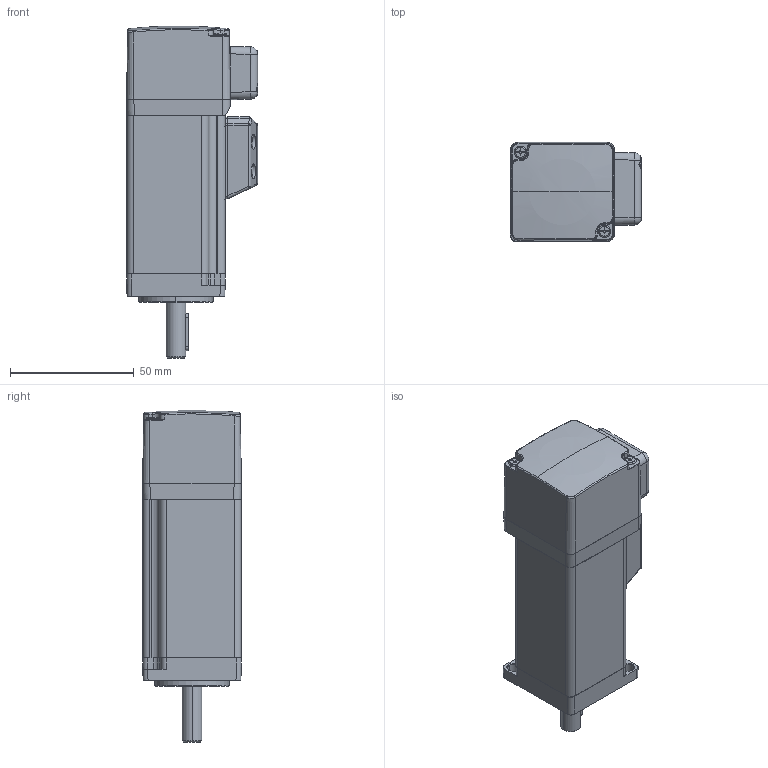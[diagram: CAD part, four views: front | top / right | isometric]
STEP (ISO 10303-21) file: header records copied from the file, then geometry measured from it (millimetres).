
FILE_DESCRIPTION((''),'2;1');
FILE_NAME('40-4P-100W_ASM','2017-09-14T',('Administrator'),(''),'PRO/ENGINEER BY PARAMETRIC TECHNOLOGY CORPORATION, 2010280','PRO/ENGINEER BY PARAMETRIC TECHNOLOGY CORPORATION, 2010280','');
FILE_SCHEMA(('CONFIG_CONTROL_DESIGN'));
Length unit declared in the file: millimetre
Products named in the file (38): MADAWAIKE-04-0301-0070_10_1; QIANDUANGAI-04-0302-0071_10_1; DIANJIZHOU-04-0202-0201_3_1; ZHUANZIZHUANGPEI-11-0300-0067_A_ASM; PRT0002_4_1; DINGZIZHUANGPEITU-11-0300-0034__ASM; TK40HOUDUANGAI-04-0302-0072_16_; DIANPIAN2_1_1; DIANYUANXIANZUO_ASM_7_ASM_1_ASM; TK40HOUZAO-05-0201-0080_19_1_1; TK40HOUZAO-05-0201-0080_19_2_1; TK40HOUZAO-05-0201-0080_19_3_1; TK40HOUZAO-05-0201-0080_19_ASM__ASM; M3X8_2_1; M3X35_2_1; MIFENGQUAN_6_1; JIAN_1_1; M2X4_1_1; 05-0201-0072_1_1__1_1; 05-0201-0073_4_1__1_1; 09-0000-0039_5_1__1_1; 04-0205-0061_4_1__1_1; 05-0201-0074_5_1__1_1; 05-0103-0010_5_1__1_1; DIANYUANXIAN-6_ASM_6_ASM_1__ASM_ASM; DIANJIXIANZUO2_ASM_4_ASM_1_ASM; PRT0010_1_1; DIXIANDUANZI2_2_1; 05-0201-0069_2_1_1_1; 05-0201-0071_3_1_1_1; 05-0201-0070_4_1_1_1; 09-0000-0039_2_1_1_1; 04-0205-0051_4_1_1_1; BIANMAQIXIAN-N21_ASM_3_ASM_1_AS_ASM; BIANMAQIXIANZUO1_ASM_1_ASM_1_ASM; ZONGZHUANGTU_ASM_87_ASM_1_ASM; 40-100W_ASM_1_ASM; 40-4P-100W_ASM
Assembly tree (54 placements, depth 6):
  40-4P-100W_ASM
    40-100W_ASM_1_ASM
      ZONGZHUANGTU_ASM_87_ASM_1_ASM
        MADAWAIKE-04-0301-0070_10_1
        QIANDUANGAI-04-0302-0071_10_1
        ZHUANZIZHUANGPEI-11-0300-0067_A_ASM
          DIANJIZHOU-04-0202-0201_3_1
        DINGZIZHUANGPEITU-11-0300-0034__ASM
          PRT0002_4_1
        TK40HOUDUANGAI-04-0302-0072_16_
        DIANYUANXIANZUO_ASM_7_ASM_1_ASM
          DIANPIAN2_1_1
        TK40HOUZAO-05-0201-0080_19_ASM__ASM
          TK40HOUZAO-05-0201-0080_19_1_1
          TK40HOUZAO-05-0201-0080_19_2_1
          TK40HOUZAO-05-0201-0080_19_3_1
        M3X8_2_1  x6
        M3X35_2_1  x2
        MIFENGQUAN_6_1  x2
        JIAN_1_1
        M2X4_1_1
        DIANJIXIANZUO2_ASM_4_ASM_1_ASM
          DIANYUANXIAN-6_ASM_6_ASM_1__ASM_ASM
            05-0201-0072_1_1__1_1
            05-0201-0073_4_1__1_1
            09-0000-0039_5_1__1_1  x4
            04-0205-0061_4_1__1_1  x4
            05-0201-0074_5_1__1_1
            05-0103-0010_5_1__1_1  x3
        PRT0010_1_1
        DIXIANDUANZI2_2_1
        BIANMAQIXIANZUO1_ASM_1_ASM_1_ASM
          BIANMAQIXIAN-N21_ASM_3_ASM_1_AS_ASM
            05-0201-0069_2_1_1_1
            05-0201-0071_3_1_1_1
            05-0201-0070_4_1_1_1
            09-0000-0039_2_1_1_1  x2
            04-0205-0051_4_1_1_1  x2
Bounding box: 53.03 x 40.06 x 134.3 mm (x, y, z)
Volume: 77574.4 mm3; surface area: 62919.3 mm2
Topology: 44 solids, 49 shells, 1331 faces, 3611 edges, 2398 vertices
Faces by surface type: plane 562, cylinder 488, cone 120, torus 93, bspline 45, sphere 21, extrusion 2
Entity records: 37276 total; most frequent: CARTESIAN_POINT 9345, DIRECTION 6031, ORIENTED_EDGE 5582, EDGE_CURVE 2801, AXIS2_PLACEMENT_3D 2334, VERTEX_POINT 1856, VECTOR 1363, LINE 1361
